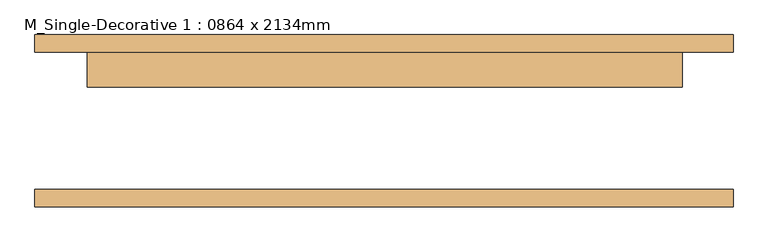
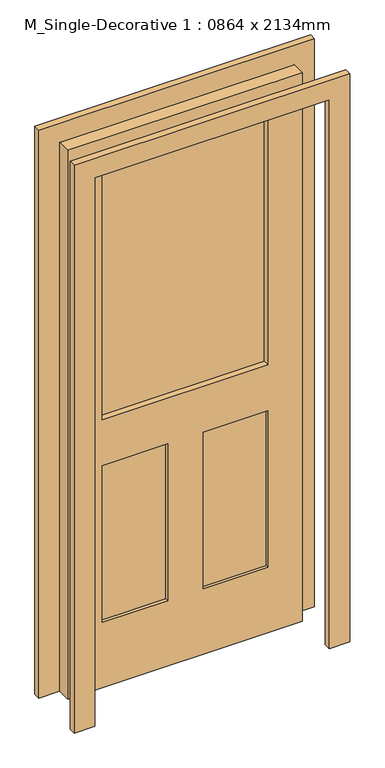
"""IFC4 building model written with IfcOpenShell, lengths in millimetres: door geometry, M_Single-Decorative 1 : 0864 x 2134mm."""

from ifc_helpers import new_model, si_unit, frame, origin, place, context, project, spatial, polyline, outline, extrude, source, transform, mapped, element, save


def m_single_decorative_1_0864_x_2134mm_a8b8a0d3(model_context):
    return source(origin(), model_context, "Body", "SweptSolid", [
        extrude(outline(polyline([(2209.0, -507.0), (0.0, -507.0), (0.0, -432.0), (2134.0, -432.0), (2134.0, 432.0), (0.0, 432.0), (0.0, 507.0), (2209.0, 507.0), (2209.0, -507.0)])), frame((0.0, 100.0, 0.0), z_axis=(0.0, 1.0, 0.0), x_axis=(0.0, 0.0, 1.0)), (0.0, 0.0, 1.0), 25.0),
        extrude(outline(polyline([(66.2296572, 87.0), (305.0, 87.0), (305.0, 61.0), (66.2296572, 61.0), (66.2296572, 87.0)])), frame((0.0, 0.0, 254.0), z_axis=(0.0, 0.0, 1.0), x_axis=(1.0, 0.0, 0.0)), (0.0, 0.0, 1.0), 610.0),
        extrude(outline(polyline([(-305.0, 87.0), (-64.0, 87.0), (-64.0, 61.0), (-305.0, 61.0), (-305.0, 87.0)])), frame((0.0, 0.0, 254.0), z_axis=(0.0, 0.0, 1.0), x_axis=(1.0, 0.0, 0.0)), (0.0, 0.0, 1.0), 610.0),
        extrude(outline(polyline([(-305.0, 78.0), (305.0, 78.0), (305.0, 72.0), (-305.0, 72.0), (-305.0, 78.0)])), frame((0.0, 0.0, 1042.0), z_axis=(0.0, 0.0, 1.0), x_axis=(1.0, 0.0, 0.0)), (0.0, 0.0, 1.0), 965.0),
        extrude(outline(polyline([(2134.0, -430.6666667), (0.0, -430.6666667), (0.0, 433.3333333), (2134.0, 433.3333333), (2134.0, -430.6666667)]), holes=[polyline([(2007.0, -303.6666667), (2007.0, 306.3333333), (1042.0, 306.3333333), (1042.0, -303.6666667), (2007.0, -303.6666667)]), polyline([(864.0, 67.5629905), (864.0, 306.3333333), (254.0, 306.3333333), (254.0, 67.5629905), (864.0, 67.5629905)]), polyline([(864.0, -303.6666667), (864.0, -62.6666667), (254.0, -62.6666667), (254.0, -303.6666667), (864.0, -303.6666667)])]), frame((0.0, 49.0, 0.0), z_axis=(0.0, 1.0, 0.0), x_axis=(0.0, 0.0, 1.0)), (0.0, 0.0, 1.0), 51.0),
        extrude(outline(polyline([(2209.0, -507.0), (0.0, -507.0), (0.0, -432.0), (2134.0, -432.0), (2134.0, 432.0), (0.0, 432.0), (0.0, 507.0), (2209.0, 507.0), (2209.0, -507.0)])), frame((0.0, -125.0, 0.0), z_axis=(0.0, 1.0, 0.0), x_axis=(0.0, 0.0, 1.0)), (0.0, 0.0, 1.0), 25.0),
    ])


if __name__ == "__main__":
    model = new_model("IFC4")
    model_context = context("Model", 3, world=origin())
    ifc_project = project(units=[si_unit("LENGTHUNIT", "METRE", prefix="MILLI")], contexts=[model_context])
    site = spatial("IfcSite", under=ifc_project)
    building = spatial("IfcBuilding", under=site)
    placement = place(None, origin())
    m_single_decorative_1_0864_x_2134mm_shape = m_single_decorative_1_0864_x_2134mm_a8b8a0d3(model_context)
    element("IfcDoor", 1, ObjectType="M_Single-Decorative 1 : 0864 x 2134mm", at=placement, inside=building, context=model_context, shape_type="MappedRepresentation", body=[
        mapped(m_single_decorative_1_0864_x_2134mm_shape, transform((0.0, 0.0, 0.0), x_axis=(1.0, 0.0, 0.0), y_axis=(0.0, 1.0, 0.0), z_axis=(0.0, 0.0, 1.0))),
    ])
    save(model, "model.ifc")
